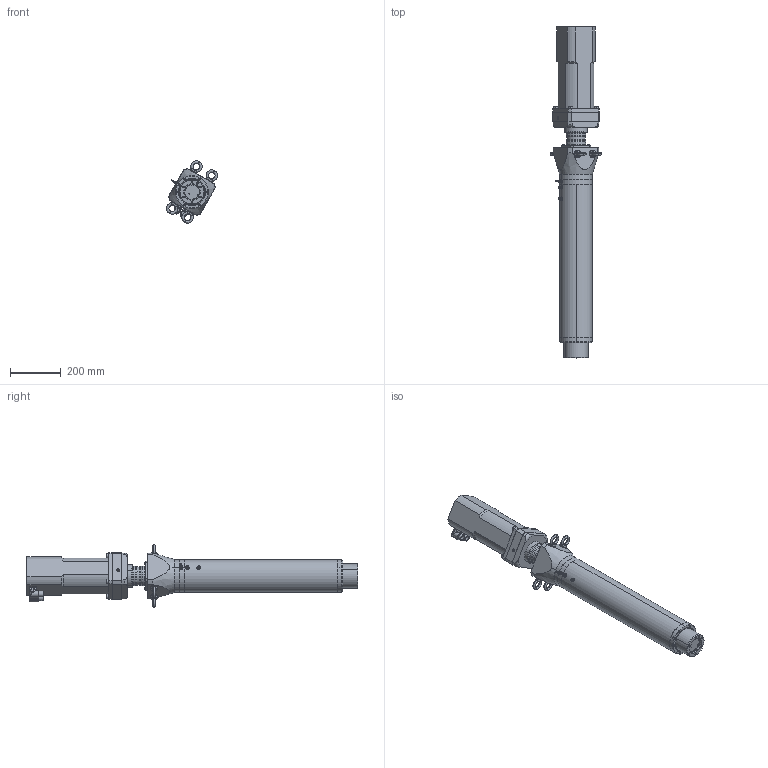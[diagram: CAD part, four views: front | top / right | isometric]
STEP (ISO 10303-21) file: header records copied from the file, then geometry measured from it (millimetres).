
FILE_DESCRIPTION (( 'STEP AP214' ), '1' );
FILE_NAME ('RLWIK030D-035-025HG0.STEP', '2023-04-05T14:04:47', ( '' ), ( '' ), 'SwSTEP 2.0', 'SolidWorks 2021', '' );
FILE_SCHEMA (( 'AUTOMOTIVE_DESIGN' ));
Length unit declared in the file: millimetre
Products named in the file (1): RLWIK030D-035-025HG0
Bounding box: 200.61 x 1302.5 x 244.54 mm (x, y, z)
Volume: 13979563.9 mm3; surface area: 1360060.8 mm2
Topology: 33 solids, 33 shells, 1107 faces, 2594 edges, 1553 vertices
Faces by surface type: cylinder 451, plane 340, cone 236, torus 60, bspline 18, sphere 2
Entity records: 45776 total; most frequent: CARTESIAN_POINT 7781, DIRECTION 5687, ORIENTED_EDGE 4948, EDGE_CURVE 2474, AXIS2_PLACEMENT_3D 2285, VERTEX_POINT 1553, EDGE_LOOP 1315, CIRCLE 1195
